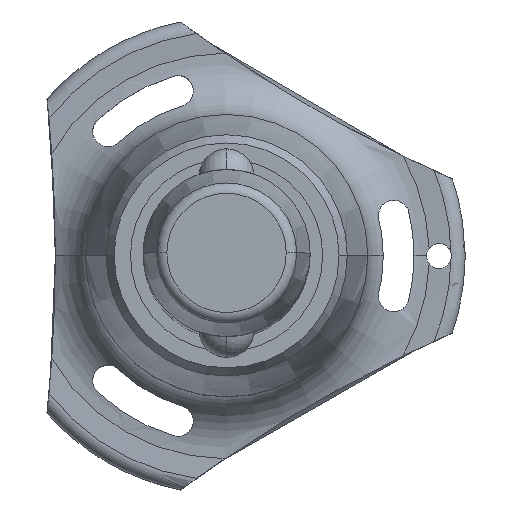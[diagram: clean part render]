
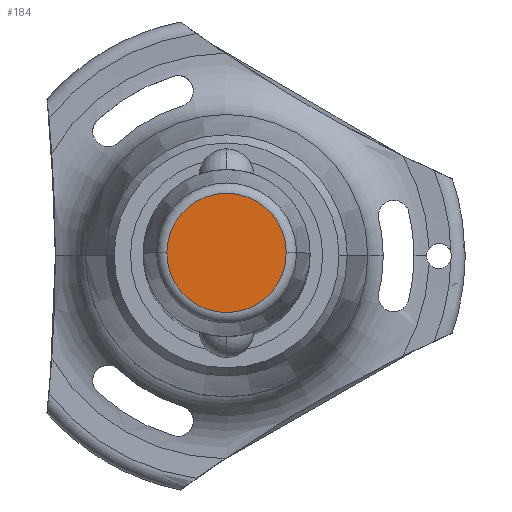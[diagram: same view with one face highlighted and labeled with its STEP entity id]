
A CAD part, top view. The second image highlights one B-rep face of the part: STEP entity #184.
In plain terms, the highlighted planar face has unit normal (0, 0, 1).
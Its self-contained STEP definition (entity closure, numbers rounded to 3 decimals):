
#184 = ADVANCED_FACE ( 'NONE', ( #2255 ), #1194, .T. ) ;
#252 = VERTEX_POINT ( 'NONE', #2751 ) ;
#274 = DIRECTION ( 'NONE',  ( 1., 0., 0. ) ) ;
#606 = DIRECTION ( 'NONE',  ( 0., 0., 1. ) ) ;
#635 = VERTEX_POINT ( 'NONE', #910 ) ;
#761 = DIRECTION ( 'NONE',  ( 1., 0., 0. ) ) ;
#855 = EDGE_CURVE ( 'NONE', #252, #635, #2687, .T. ) ;
#910 = CARTESIAN_POINT ( 'NONE',  ( -7.144, 0., 20.5 ) ) ;
#980 = ORIENTED_EDGE ( 'NONE', *, *, #855, .T. ) ;
#982 = CARTESIAN_POINT ( 'NONE',  ( 0., 0., 20.5 ) ) ;
#1049 = AXIS2_PLACEMENT_3D ( 'NONE', #2577, #606, #1507 ) ;
#1088 = AXIS2_PLACEMENT_3D ( 'NONE', #2073, #2654, #274 ) ;
#1194 = PLANE ( 'NONE',  #1088 ) ;
#1236 = CIRCLE ( 'NONE', #1325, 7.144 ) ;
#1291 = EDGE_CURVE ( 'NONE', #635, #252, #1236, .T. ) ;
#1325 = AXIS2_PLACEMENT_3D ( 'NONE', #982, #2070, #761 ) ;
#1467 = EDGE_LOOP ( 'NONE', ( #980, #2084 ) ) ;
#1507 = DIRECTION ( 'NONE',  ( 1., 0., 0. ) ) ;
#2070 = DIRECTION ( 'NONE',  ( 0., 0., 1. ) ) ;
#2073 = CARTESIAN_POINT ( 'NONE',  ( 0., 0., 20.5 ) ) ;
#2084 = ORIENTED_EDGE ( 'NONE', *, *, #1291, .T. ) ;
#2255 = FACE_OUTER_BOUND ( 'NONE', #1467, .T. ) ;
#2577 = CARTESIAN_POINT ( 'NONE',  ( 0., 0., 20.5 ) ) ;
#2654 = DIRECTION ( 'NONE',  ( 0., 0., 1. ) ) ;
#2687 = CIRCLE ( 'NONE', #1049, 7.144 ) ;
#2751 = CARTESIAN_POINT ( 'NONE',  ( 7.144, 0., 20.5 ) ) ;
